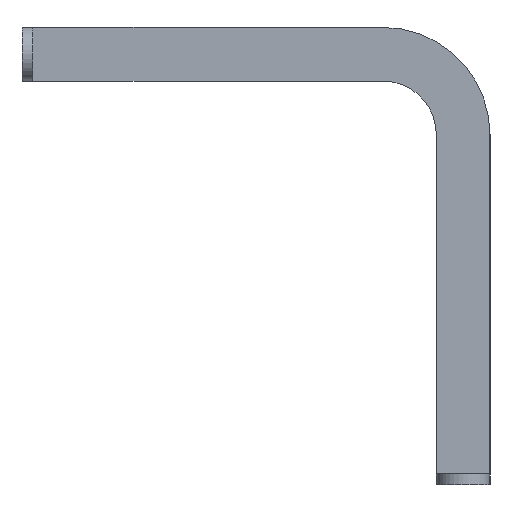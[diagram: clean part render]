
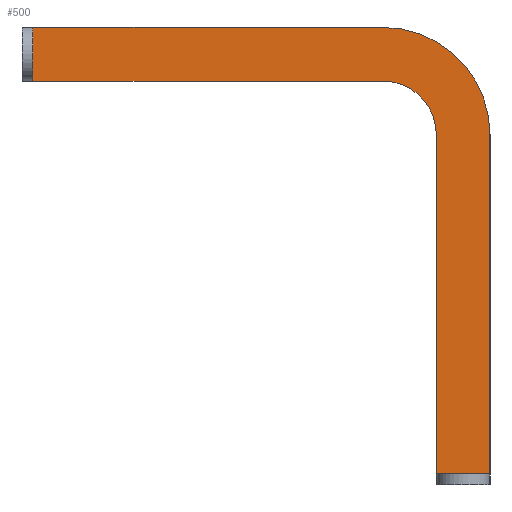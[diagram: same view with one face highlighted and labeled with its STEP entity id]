
A CAD part, front view. The second image highlights one B-rep face of the part: STEP entity #500.
In plain terms, the highlighted planar face has unit normal (0, -1, 0).
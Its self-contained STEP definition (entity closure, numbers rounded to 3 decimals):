
#51 = VECTOR ( 'NONE', #1440, 1000. ) ;
#55 = VECTOR ( 'NONE', #852, 1000. ) ;
#62 = CARTESIAN_POINT ( 'NONE',  ( 0., -8., -50. ) ) ;
#67 = LINE ( 'NONE', #105, #51 ) ;
#69 = VECTOR ( 'NONE', #1831, 1000. ) ;
#70 = LINE ( 'NONE', #691, #55 ) ;
#77 = LINE ( 'NONE', #1699, #69 ) ;
#100 = CARTESIAN_POINT ( 'NONE',  ( -50., -8., 0. ) ) ;
#105 = CARTESIAN_POINT ( 'NONE',  ( -213., -8., 0. ) ) ;
#121 = CIRCLE ( 'NONE', #437, 25. ) ;
#145 = VECTOR ( 'NONE', #358, 1000. ) ;
#154 = LINE ( 'NONE', #100, #145 ) ;
#155 = LINE ( 'NONE', #446, #202 ) ;
#202 = VECTOR ( 'NONE', #1273, 1000. ) ;
#227 = CIRCLE ( 'NONE', #443, 50. ) ;
#238 = VECTOR ( 'NONE', #1325, 1000. ) ;
#263 = ORIENTED_EDGE ( 'NONE', *, *, #859, .F. ) ;
#279 = LINE ( 'NONE', #1456, #238 ) ;
#340 = CARTESIAN_POINT ( 'NONE',  ( -213., -8., -25. ) ) ;
#348 = VERTEX_POINT ( 'NONE', #519 ) ;
#354 = CARTESIAN_POINT ( 'NONE',  ( -50., -8., 0. ) ) ;
#358 = DIRECTION ( 'NONE',  ( 1., 0., 0. ) ) ;
#437 = AXIS2_PLACEMENT_3D ( 'NONE', #686, #1688, #842 ) ;
#443 = AXIS2_PLACEMENT_3D ( 'NONE', #1154, #1132, #1124 ) ;
#446 = CARTESIAN_POINT ( 'NONE',  ( -213., -8., -25. ) ) ;
#465 = CARTESIAN_POINT ( 'NONE',  ( -213., -8., 0. ) ) ;
#500 = ADVANCED_FACE ( 'NONE', ( #536 ), #1213, .T. ) ;
#519 = CARTESIAN_POINT ( 'NONE',  ( -25., -8., -208. ) ) ;
#536 = FACE_OUTER_BOUND ( 'NONE', #1088, .T. ) ;
#579 = AXIS2_PLACEMENT_3D ( 'NONE', #581, #1271, #1322 ) ;
#581 = CARTESIAN_POINT ( 'NONE',  ( -50., -8., -50. ) ) ;
#625 = VERTEX_POINT ( 'NONE', #465 ) ;
#633 = ORIENTED_EDGE ( 'NONE', *, *, #848, .F. ) ;
#686 = CARTESIAN_POINT ( 'NONE',  ( -50., -8., -50. ) ) ;
#691 = CARTESIAN_POINT ( 'NONE',  ( -25., -8., -208. ) ) ;
#748 = VERTEX_POINT ( 'NONE', #1163 ) ;
#787 = VERTEX_POINT ( 'NONE', #924 ) ;
#789 = VERTEX_POINT ( 'NONE', #1567 ) ;
#790 = EDGE_CURVE ( 'NONE', #1404, #748, #279, .T. ) ;
#819 = EDGE_CURVE ( 'NONE', #1405, #1404, #227, .T. ) ;
#829 = VERTEX_POINT ( 'NONE', #340 ) ;
#842 = DIRECTION ( 'NONE',  ( 0., 0., -1. ) ) ;
#848 = EDGE_CURVE ( 'NONE', #625, #1405, #154, .T. ) ;
#852 = DIRECTION ( 'NONE',  ( -1., 0., 0. ) ) ;
#859 = EDGE_CURVE ( 'NONE', #787, #829, #155, .T. ) ;
#879 = EDGE_CURVE ( 'NONE', #789, #787, #121, .T. ) ;
#902 = EDGE_CURVE ( 'NONE', #348, #789, #77, .T. ) ;
#906 = EDGE_CURVE ( 'NONE', #748, #348, #70, .T. ) ;
#910 = EDGE_CURVE ( 'NONE', #829, #625, #67, .T. ) ;
#924 = CARTESIAN_POINT ( 'NONE',  ( -50., -8., -25. ) ) ;
#1088 = EDGE_LOOP ( 'NONE', ( #1675, #1694, #1230, #633, #1378, #263, #1759, #1622 ) ) ;
#1124 = DIRECTION ( 'NONE',  ( 0., 0., -1. ) ) ;
#1132 = DIRECTION ( 'NONE',  ( 0., 1., 0. ) ) ;
#1154 = CARTESIAN_POINT ( 'NONE',  ( -50., -8., -50. ) ) ;
#1163 = CARTESIAN_POINT ( 'NONE',  ( 0., -8., -208. ) ) ;
#1213 = PLANE ( 'NONE',  #579 ) ;
#1230 = ORIENTED_EDGE ( 'NONE', *, *, #819, .F. ) ;
#1271 = DIRECTION ( 'NONE',  ( 0., -1., 0. ) ) ;
#1273 = DIRECTION ( 'NONE',  ( -1., 0., 0. ) ) ;
#1322 = DIRECTION ( 'NONE',  ( 0., 0., -1. ) ) ;
#1325 = DIRECTION ( 'NONE',  ( 0., 0., -1. ) ) ;
#1378 = ORIENTED_EDGE ( 'NONE', *, *, #910, .F. ) ;
#1404 = VERTEX_POINT ( 'NONE', #62 ) ;
#1405 = VERTEX_POINT ( 'NONE', #354 ) ;
#1440 = DIRECTION ( 'NONE',  ( 0., 0., 1. ) ) ;
#1456 = CARTESIAN_POINT ( 'NONE',  ( 0., -8., -208. ) ) ;
#1567 = CARTESIAN_POINT ( 'NONE',  ( -25., -8., -50. ) ) ;
#1622 = ORIENTED_EDGE ( 'NONE', *, *, #902, .F. ) ;
#1675 = ORIENTED_EDGE ( 'NONE', *, *, #906, .F. ) ;
#1688 = DIRECTION ( 'NONE',  ( 0., -1., 0. ) ) ;
#1694 = ORIENTED_EDGE ( 'NONE', *, *, #790, .F. ) ;
#1699 = CARTESIAN_POINT ( 'NONE',  ( -25., -8., -50. ) ) ;
#1759 = ORIENTED_EDGE ( 'NONE', *, *, #879, .F. ) ;
#1831 = DIRECTION ( 'NONE',  ( 0., 0., 1. ) ) ;
